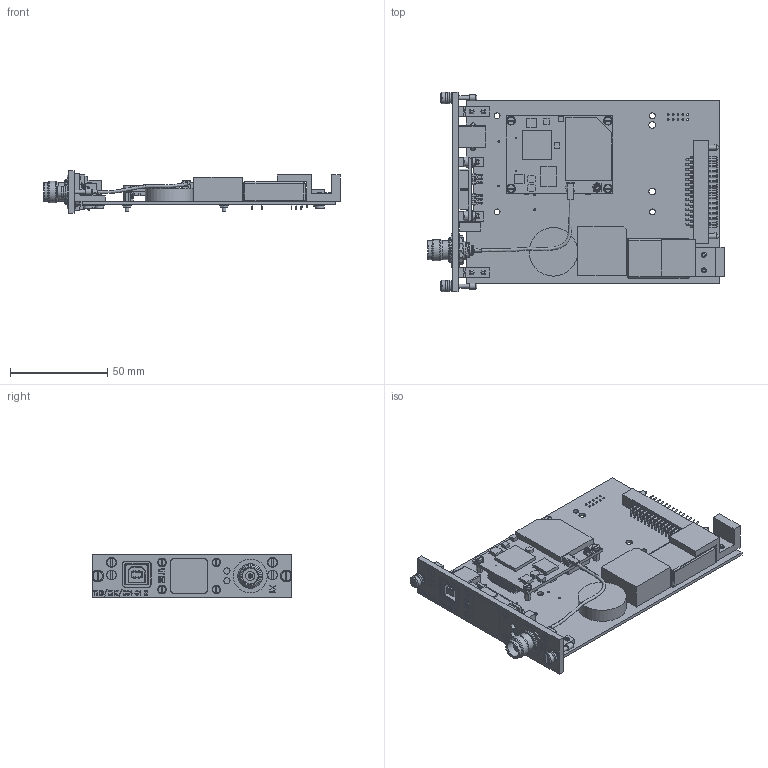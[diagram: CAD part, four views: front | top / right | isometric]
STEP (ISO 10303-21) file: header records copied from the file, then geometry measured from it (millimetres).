
FILE_DESCRIPTION(('STEP AP203'), '1');
FILE_NAME('帎迗.464349.001-01 沓劌錪 眝3_敊娕001-01', '', ('UNSPECIFIED'), ('UNSPECIFIED'), 'C3D Converter', 'C3D Toolkit', '');
FILE_SCHEMA(('CONFIG_CONTROL_DESIGN'));
Length unit declared in the file: millimetre
Products named in the file (1): КМНТ.464349.001-01
Bounding box: 152.9 x 103 x 21.7 mm (x, y, z)
Volume: 64273.4 mm3; surface area: 59640 mm2
Topology: 10 solids, 10 shells, 5078 faces, 15028 edges, 9941 vertices
Faces by surface type: plane 3373, cylinder 1405, cone 148, sphere 69, bspline 52, torus 31
Full cylindrical faces by diameter (mm): 0.5 x16, 0.6 x99, 0.8 x34, 0.9 x22, 0.92 x4, 1 x91, 1.2 x5, 1.567 x4, 1.6 x2, 2 x7, 2.013 x4, 2.2 x1, 2.23 x2, 2.3 x2, 2.4 x2, 2.459 x2, 2.49 x2, 2.5 x10, 2.7 x2, 3 x6, 3.2 x4, 3.4 x1, 3.5 x6, 3.8 x4, 4.3 x4, 4.5 x18, 4.72 x2, 5 x16, 5.2 x2, 6 x6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
Entity records: 225035 total; most frequent: CARTESIAN_POINT 48134, ORIENTED_EDGE 28762, DIRECTION 26906, EDGE_CURVE 14381, LINE 10548, VECTOR 10548, VERTEX_POINT 9898, AXIS2_PLACEMENT_3D 8179
